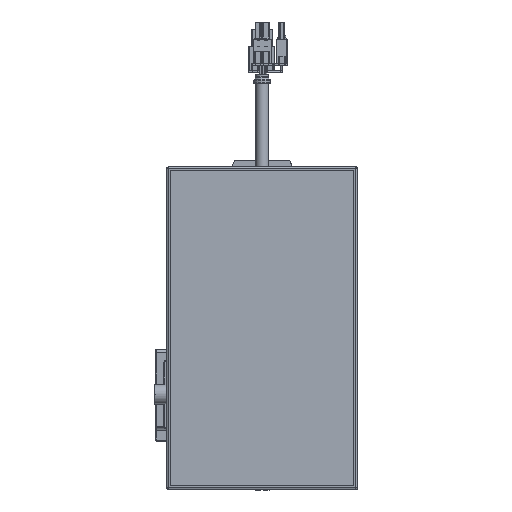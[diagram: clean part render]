
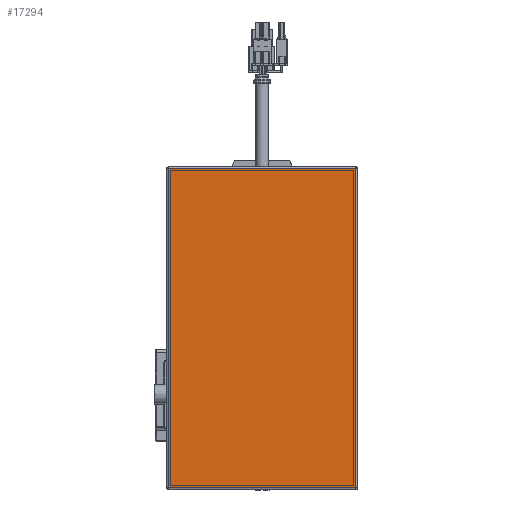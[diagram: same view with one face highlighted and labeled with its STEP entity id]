
A CAD part, top view. The second image highlights one B-rep face of the part: STEP entity #17294.
In plain terms, the highlighted planar face has unit normal (0, 0, 1).
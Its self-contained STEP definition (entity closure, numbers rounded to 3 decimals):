
#17255=CARTESIAN_POINT('',(-36.,36.,514.5));
#17256=DIRECTION('',(0.,1.,0.));
#17257=DIRECTION('',(0.,-0.,1.));
#17258=AXIS2_PLACEMENT_3D('',#17255,#17257,#17256);
#17259=PLANE('',#17258);
#17260=CARTESIAN_POINT('',(51.,-51.,514.5));
#17261=VERTEX_POINT('',#17260);
#17262=CARTESIAN_POINT('',(51.,123.,514.5));
#17263=VERTEX_POINT('',#17262);
#17264=CARTESIAN_POINT('',(51.,-51.,514.5));
#17265=DIRECTION('',(0.,1.,0.));
#17266=VECTOR('',#17265,174.);
#17267=LINE('',#17264,#17266);
#17268=EDGE_CURVE('',#17261,#17263,#17267,.T.);
#17269=ORIENTED_EDGE('E3132',*,*,#17268,.T.);
#17270=CARTESIAN_POINT('',(-51.,123.,514.5));
#17271=VERTEX_POINT('',#17270);
#17272=CARTESIAN_POINT('',(51.,123.,514.5));
#17273=DIRECTION('',(-1.,0.,0.));
#17274=VECTOR('',#17273,102.);
#17275=LINE('',#17272,#17274);
#17276=EDGE_CURVE('',#17263,#17271,#17275,.T.);
#17277=ORIENTED_EDGE('E3133',*,*,#17276,.T.);
#17278=CARTESIAN_POINT('',(-51.,-51.,514.5));
#17279=VERTEX_POINT('',#17278);
#17280=CARTESIAN_POINT('',(-51.,123.,514.5));
#17281=DIRECTION('',(0.,-1.,0.));
#17282=VECTOR('',#17281,174.);
#17283=LINE('',#17280,#17282);
#17284=EDGE_CURVE('',#17271,#17279,#17283,.T.);
#17285=ORIENTED_EDGE('E3134',*,*,#17284,.T.);
#17286=CARTESIAN_POINT('',(-51.,-51.,514.5));
#17287=DIRECTION('',(1.,0.,0.));
#17288=VECTOR('',#17287,102.);
#17289=LINE('',#17286,#17288);
#17290=EDGE_CURVE('',#17279,#17261,#17289,.T.);
#17291=ORIENTED_EDGE('E3135',*,*,#17290,.T.);
#17292=EDGE_LOOP('',(#17269,#17277,#17285,#17291));
#17293=FACE_OUTER_BOUND('',#17292,.T.);
#17294=ADVANCED_FACE('F1184',(#17293),#17259,.T.);
